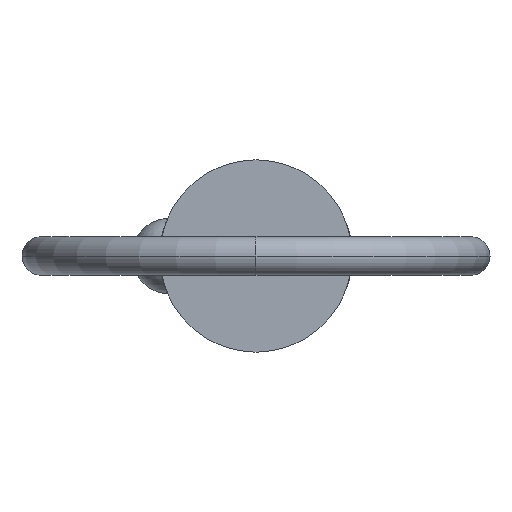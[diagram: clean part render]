
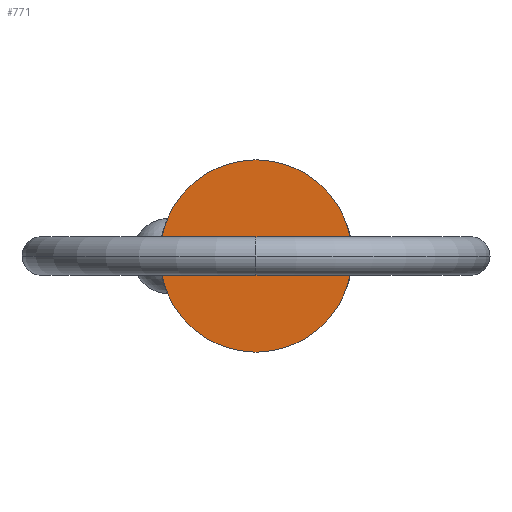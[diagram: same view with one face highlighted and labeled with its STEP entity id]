
A CAD part, left-side view. The second image highlights one B-rep face of the part: STEP entity #771.
In plain terms, the highlighted planar face has unit normal (-1, 0, 0).
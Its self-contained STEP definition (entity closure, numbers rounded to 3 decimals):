
#25 = DIRECTION ( 'NONE',  ( 1., 0., 0. ) ) ;
#36 = AXIS2_PLACEMENT_3D ( 'NONE', #315, #25, #371 ) ;
#90 = PLANE ( 'NONE',  #749 ) ;
#94 = CARTESIAN_POINT ( 'NONE',  ( 0., 0., 0. ) ) ;
#109 = AXIS2_PLACEMENT_3D ( 'NONE', #345, #208, #482 ) ;
#181 = EDGE_CURVE ( 'NONE', #348, #666, #630, .T. ) ;
#208 = DIRECTION ( 'NONE',  ( 1., 0., 0. ) ) ;
#222 = FACE_OUTER_BOUND ( 'NONE', #416, .T. ) ;
#315 = CARTESIAN_POINT ( 'NONE',  ( 0., 0., 0. ) ) ;
#328 = ORIENTED_EDGE ( 'NONE', *, *, #687, .F. ) ;
#345 = CARTESIAN_POINT ( 'NONE',  ( 0., 0., 0. ) ) ;
#348 = VERTEX_POINT ( 'NONE', #742 ) ;
#362 = DIRECTION ( 'NONE',  ( -1., 0., 0. ) ) ;
#371 = DIRECTION ( 'NONE',  ( 0., 0., -1. ) ) ;
#416 = EDGE_LOOP ( 'NONE', ( #328, #847 ) ) ;
#441 = DIRECTION ( 'NONE',  ( 0., 0., 1. ) ) ;
#482 = DIRECTION ( 'NONE',  ( 0., 0., -1. ) ) ;
#630 = CIRCLE ( 'NONE', #109, 7.11 ) ;
#666 = VERTEX_POINT ( 'NONE', #861 ) ;
#687 = EDGE_CURVE ( 'NONE', #666, #348, #842, .T. ) ;
#742 = CARTESIAN_POINT ( 'NONE',  ( 0., 0., 7.11 ) ) ;
#749 = AXIS2_PLACEMENT_3D ( 'NONE', #94, #362, #441 ) ;
#771 = ADVANCED_FACE ( 'NONE', ( #222 ), #90, .T. ) ;
#842 = CIRCLE ( 'NONE', #36, 7.11 ) ;
#847 = ORIENTED_EDGE ( 'NONE', *, *, #181, .F. ) ;
#861 = CARTESIAN_POINT ( 'NONE',  ( 0., 0., -7.11 ) ) ;
